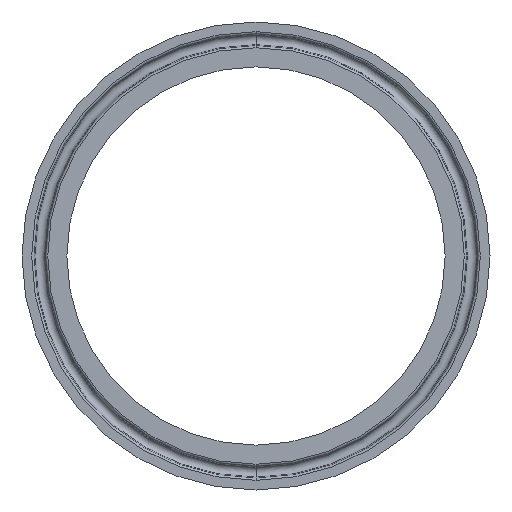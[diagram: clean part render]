
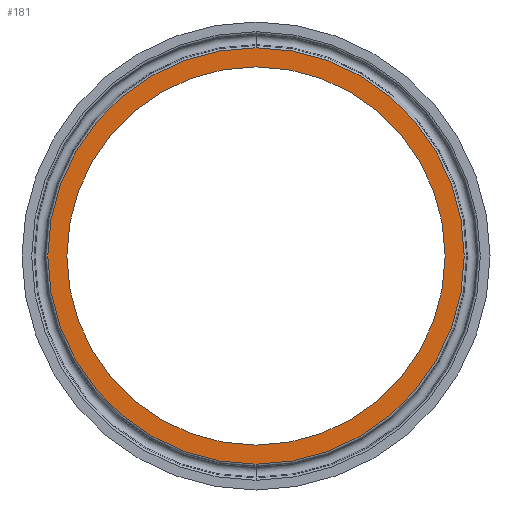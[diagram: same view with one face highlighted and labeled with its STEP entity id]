
A CAD part, front view. The second image highlights one B-rep face of the part: STEP entity #181.
In plain terms, the highlighted planar face has unit normal (0, -1, 0).
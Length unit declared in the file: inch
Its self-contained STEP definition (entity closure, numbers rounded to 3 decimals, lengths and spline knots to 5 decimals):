
#16 = CARTESIAN_POINT ( 'NONE',  ( 0., 0., -1.667 ) ) ;
#31 = VERTEX_POINT ( 'NONE', #514 ) ;
#41 = CARTESIAN_POINT ( 'NONE',  ( 0., 0., 0. ) ) ;
#45 = DIRECTION ( 'NONE',  ( 0., 0., 1. ) ) ;
#63 = ORIENTED_EDGE ( 'NONE', *, *, #605, .T. ) ;
#114 = AXIS2_PLACEMENT_3D ( 'NONE', #41, #644, #45 ) ;
#129 = DIRECTION ( 'NONE',  ( 0., 0., 1. ) ) ;
#140 = CARTESIAN_POINT ( 'NONE',  ( 0., 0., 1.667 ) ) ;
#169 = DIRECTION ( 'NONE',  ( 0., 1., 0. ) ) ;
#173 = DIRECTION ( 'NONE',  ( 0., 1., 0. ) ) ;
#181 = ADVANCED_FACE ( 'NONE', ( #214, #580 ), #632, .F. ) ;
#192 = EDGE_CURVE ( 'NONE', #31, #635, #301, .T. ) ;
#210 = VERTEX_POINT ( 'NONE', #16 ) ;
#214 = FACE_OUTER_BOUND ( 'NONE', #639, .T. ) ;
#216 = CARTESIAN_POINT ( 'NONE',  ( 0., 0., 0. ) ) ;
#277 = AXIS2_PLACEMENT_3D ( 'NONE', #596, #324, #334 ) ;
#282 = AXIS2_PLACEMENT_3D ( 'NONE', #379, #326, #627 ) ;
#298 = EDGE_LOOP ( 'NONE', ( #63, #560 ) ) ;
#301 = CIRCLE ( 'NONE', #588, 1.83491 ) ;
#324 = DIRECTION ( 'NONE',  ( 0., 1., 0. ) ) ;
#326 = DIRECTION ( 'NONE',  ( 0., 1., 0. ) ) ;
#328 = ORIENTED_EDGE ( 'NONE', *, *, #650, .F. ) ;
#332 = VERTEX_POINT ( 'NONE', #140 ) ;
#334 = DIRECTION ( 'NONE',  ( 0., 0., 1. ) ) ;
#373 = CARTESIAN_POINT ( 'NONE',  ( 0., 0., 0. ) ) ;
#379 = CARTESIAN_POINT ( 'NONE',  ( 0., 0., 0. ) ) ;
#388 = CIRCLE ( 'NONE', #114, 1.667 ) ;
#455 = EDGE_CURVE ( 'NONE', #210, #332, #388, .T. ) ;
#514 = CARTESIAN_POINT ( 'NONE',  ( 0., 0., 1.83491 ) ) ;
#548 = CIRCLE ( 'NONE', #620, 1.667 ) ;
#556 = ORIENTED_EDGE ( 'NONE', *, *, #192, .F. ) ;
#560 = ORIENTED_EDGE ( 'NONE', *, *, #455, .T. ) ;
#579 = CIRCLE ( 'NONE', #282, 1.83491 ) ;
#580 = FACE_BOUND ( 'NONE', #298, .T. ) ;
#586 = DIRECTION ( 'NONE',  ( 0., 0., 1. ) ) ;
#588 = AXIS2_PLACEMENT_3D ( 'NONE', #373, #169, #129 ) ;
#590 = CARTESIAN_POINT ( 'NONE',  ( 0., 0., -1.83491 ) ) ;
#596 = CARTESIAN_POINT ( 'NONE',  ( 0., 0., 0. ) ) ;
#605 = EDGE_CURVE ( 'NONE', #332, #210, #548, .T. ) ;
#620 = AXIS2_PLACEMENT_3D ( 'NONE', #216, #173, #586 ) ;
#627 = DIRECTION ( 'NONE',  ( 0., 0., 1. ) ) ;
#632 = PLANE ( 'NONE',  #277 ) ;
#635 = VERTEX_POINT ( 'NONE', #590 ) ;
#639 = EDGE_LOOP ( 'NONE', ( #556, #328 ) ) ;
#644 = DIRECTION ( 'NONE',  ( 0., 1., 0. ) ) ;
#650 = EDGE_CURVE ( 'NONE', #635, #31, #579, .T. ) ;
